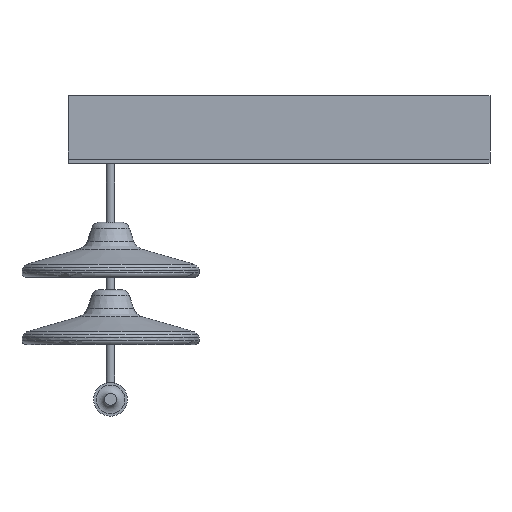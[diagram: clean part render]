
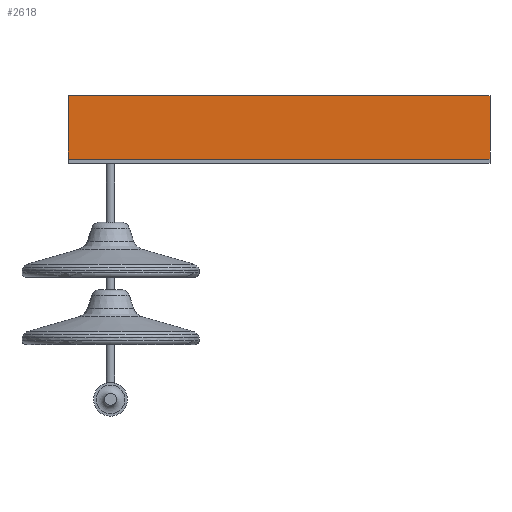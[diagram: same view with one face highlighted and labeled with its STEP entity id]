
A CAD part, front view. The second image highlights one B-rep face of the part: STEP entity #2618.
In plain terms, the highlighted planar face has unit normal (0, -1, 0).
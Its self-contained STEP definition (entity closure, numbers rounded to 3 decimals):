
#2217 = PLANE('',#2218);
#2218 = AXIS2_PLACEMENT_3D('',#2219,#2220,#2221);
#2219 = CARTESIAN_POINT('',(-50.,-40.,200.));
#2220 = DIRECTION('',(0.,1.,0.));
#2221 = DIRECTION('',(0.,0.,1.));
#2282 = VERTEX_POINT('',#2283);
#2283 = CARTESIAN_POINT('',(450.,-40.,205.));
#2320 = PLANE('',#2321);
#2321 = AXIS2_PLACEMENT_3D('',#2322,#2323,#2324);
#2322 = CARTESIAN_POINT('',(450.,-40.,200.));
#2323 = DIRECTION('',(1.,0.,0.));
#2324 = DIRECTION('',(0.,0.,1.));
#2375 = PLANE('',#2376);
#2376 = AXIS2_PLACEMENT_3D('',#2377,#2378,#2379);
#2377 = CARTESIAN_POINT('',(-50.,-40.,200.));
#2378 = DIRECTION('',(1.,0.,0.));
#2379 = DIRECTION('',(0.,0.,1.));
#2401 = PLANE('',#2402);
#2402 = AXIS2_PLACEMENT_3D('',#2403,#2404,#2405);
#2403 = CARTESIAN_POINT('',(-50.,-40.,280.));
#2404 = DIRECTION('',(0.,0.,1.));
#2405 = DIRECTION('',(1.,0.,0.));
#2417 = VERTEX_POINT('',#2418);
#2418 = CARTESIAN_POINT('',(-50.,-40.,205.));
#2467 = EDGE_CURVE('',#2417,#2282,#2468,.T.);
#2468 = SURFACE_CURVE('',#2469,(#2473,#2480),.PCURVE_S1.);
#2469 = LINE('',#2470,#2471);
#2470 = CARTESIAN_POINT('',(-50.,-40.,205.));
#2471 = VECTOR('',#2472,1.);
#2472 = DIRECTION('',(1.,0.,0.));
#2473 = PCURVE('',#2217,#2474);
#2474 = DEFINITIONAL_REPRESENTATION('',(#2475),#2479);
#2475 = LINE('',#2476,#2477);
#2476 = CARTESIAN_POINT('',(5.,0.));
#2477 = VECTOR('',#2478,1.);
#2478 = DIRECTION('',(0.,1.));
#2479 = ( GEOMETRIC_REPRESENTATION_CONTEXT(2) 
PARAMETRIC_REPRESENTATION_CONTEXT() REPRESENTATION_CONTEXT('2D SPACE',''
  ) );
#2480 = PCURVE('',#2481,#2486);
#2481 = PLANE('',#2482);
#2482 = AXIS2_PLACEMENT_3D('',#2483,#2484,#2485);
#2483 = CARTESIAN_POINT('',(-50.,-40.,200.));
#2484 = DIRECTION('',(0.,1.,0.));
#2485 = DIRECTION('',(0.,0.,1.));
#2486 = DEFINITIONAL_REPRESENTATION('',(#2487),#2491);
#2487 = LINE('',#2488,#2489);
#2488 = CARTESIAN_POINT('',(5.,0.));
#2489 = VECTOR('',#2490,1.);
#2490 = DIRECTION('',(0.,1.));
#2491 = ( GEOMETRIC_REPRESENTATION_CONTEXT(2) 
PARAMETRIC_REPRESENTATION_CONTEXT() REPRESENTATION_CONTEXT('2D SPACE',''
  ) );
#2497 = EDGE_CURVE('',#2282,#2498,#2500,.T.);
#2498 = VERTEX_POINT('',#2499);
#2499 = CARTESIAN_POINT('',(450.,-40.,280.));
#2500 = SURFACE_CURVE('',#2501,(#2505,#2512),.PCURVE_S1.);
#2501 = LINE('',#2502,#2503);
#2502 = CARTESIAN_POINT('',(450.,-40.,200.));
#2503 = VECTOR('',#2504,1.);
#2504 = DIRECTION('',(0.,0.,1.));
#2505 = PCURVE('',#2320,#2506);
#2506 = DEFINITIONAL_REPRESENTATION('',(#2507),#2511);
#2507 = LINE('',#2508,#2509);
#2508 = CARTESIAN_POINT('',(0.,0.));
#2509 = VECTOR('',#2510,1.);
#2510 = DIRECTION('',(1.,0.));
#2511 = ( GEOMETRIC_REPRESENTATION_CONTEXT(2) 
PARAMETRIC_REPRESENTATION_CONTEXT() REPRESENTATION_CONTEXT('2D SPACE',''
  ) );
#2512 = PCURVE('',#2481,#2513);
#2513 = DEFINITIONAL_REPRESENTATION('',(#2514),#2518);
#2514 = LINE('',#2515,#2516);
#2515 = CARTESIAN_POINT('',(0.,500.));
#2516 = VECTOR('',#2517,1.);
#2517 = DIRECTION('',(1.,0.));
#2518 = ( GEOMETRIC_REPRESENTATION_CONTEXT(2) 
PARAMETRIC_REPRESENTATION_CONTEXT() REPRESENTATION_CONTEXT('2D SPACE',''
  ) );
#2547 = VERTEX_POINT('',#2548);
#2548 = CARTESIAN_POINT('',(-50.,-40.,280.));
#2569 = EDGE_CURVE('',#2547,#2498,#2570,.T.);
#2570 = SURFACE_CURVE('',#2571,(#2575,#2582),.PCURVE_S1.);
#2571 = LINE('',#2572,#2573);
#2572 = CARTESIAN_POINT('',(-50.,-40.,280.));
#2573 = VECTOR('',#2574,1.);
#2574 = DIRECTION('',(1.,0.,0.));
#2575 = PCURVE('',#2401,#2576);
#2576 = DEFINITIONAL_REPRESENTATION('',(#2577),#2581);
#2577 = LINE('',#2578,#2579);
#2578 = CARTESIAN_POINT('',(0.,0.));
#2579 = VECTOR('',#2580,1.);
#2580 = DIRECTION('',(1.,0.));
#2581 = ( GEOMETRIC_REPRESENTATION_CONTEXT(2) 
PARAMETRIC_REPRESENTATION_CONTEXT() REPRESENTATION_CONTEXT('2D SPACE',''
  ) );
#2582 = PCURVE('',#2481,#2583);
#2583 = DEFINITIONAL_REPRESENTATION('',(#2584),#2588);
#2584 = LINE('',#2585,#2586);
#2585 = CARTESIAN_POINT('',(80.,0.));
#2586 = VECTOR('',#2587,1.);
#2587 = DIRECTION('',(0.,1.));
#2588 = ( GEOMETRIC_REPRESENTATION_CONTEXT(2) 
PARAMETRIC_REPRESENTATION_CONTEXT() REPRESENTATION_CONTEXT('2D SPACE',''
  ) );
#2595 = EDGE_CURVE('',#2417,#2547,#2596,.T.);
#2596 = SURFACE_CURVE('',#2597,(#2601,#2608),.PCURVE_S1.);
#2597 = LINE('',#2598,#2599);
#2598 = CARTESIAN_POINT('',(-50.,-40.,200.));
#2599 = VECTOR('',#2600,1.);
#2600 = DIRECTION('',(0.,0.,1.));
#2601 = PCURVE('',#2375,#2602);
#2602 = DEFINITIONAL_REPRESENTATION('',(#2603),#2607);
#2603 = LINE('',#2604,#2605);
#2604 = CARTESIAN_POINT('',(0.,0.));
#2605 = VECTOR('',#2606,1.);
#2606 = DIRECTION('',(1.,0.));
#2607 = ( GEOMETRIC_REPRESENTATION_CONTEXT(2) 
PARAMETRIC_REPRESENTATION_CONTEXT() REPRESENTATION_CONTEXT('2D SPACE',''
  ) );
#2608 = PCURVE('',#2481,#2609);
#2609 = DEFINITIONAL_REPRESENTATION('',(#2610),#2614);
#2610 = LINE('',#2611,#2612);
#2611 = CARTESIAN_POINT('',(0.,0.));
#2612 = VECTOR('',#2613,1.);
#2613 = DIRECTION('',(1.,0.));
#2614 = ( GEOMETRIC_REPRESENTATION_CONTEXT(2) 
PARAMETRIC_REPRESENTATION_CONTEXT() REPRESENTATION_CONTEXT('2D SPACE',''
  ) );
#2618 = ADVANCED_FACE('',(#2619),#2481,.F.);
#2619 = FACE_BOUND('',#2620,.F.);
#2620 = EDGE_LOOP('',(#2621,#2622,#2623,#2624));
#2621 = ORIENTED_EDGE('',*,*,#2467,.F.);
#2622 = ORIENTED_EDGE('',*,*,#2595,.T.);
#2623 = ORIENTED_EDGE('',*,*,#2569,.T.);
#2624 = ORIENTED_EDGE('',*,*,#2497,.F.);
